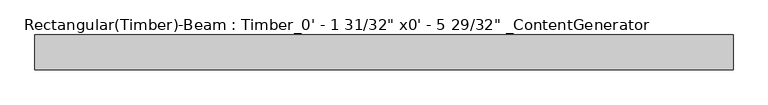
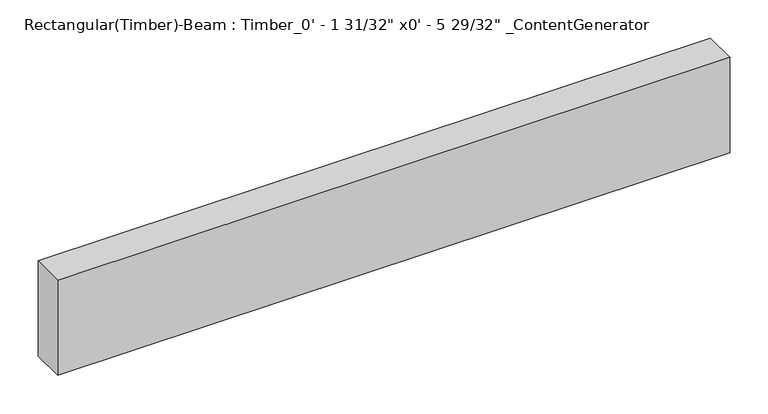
"""IFC4 building model written with IfcOpenShell, lengths in millimetres: beam geometry."""

from ifc_helpers import new_model, si_unit, frame, origin, place, context, project, spatial, polyline, outline, extrude, source, transform, mapped, element, save


def beam_a7231d91(model_context):
    return source(origin(), model_context, "Body", "SweptSolid", [
        extrude(outline(polyline([(508.01, 25.4), (508.01, -25.4), (-508.01, -25.4), (-508.01, 25.4), (508.01, 25.4)])), frame((0.0, 0.0, -76.2), z_axis=(0.0, 0.0, 1.0), x_axis=(1.0, 0.0, 0.0)), (0.0, 0.0, 1.0), 152.4),
    ])


if __name__ == "__main__":
    model = new_model("IFC4")
    model_context = context("Model", 3, world=origin())
    ifc_project = project(units=[si_unit("LENGTHUNIT", "METRE", prefix="MILLI")], contexts=[model_context])
    site = spatial("IfcSite", under=ifc_project)
    building = spatial("IfcBuilding", under=site)
    placement = place(None, origin())
    beam_shape = beam_a7231d91(model_context)
    element("IfcBeam", 1, ObjectType="Rectangular(Timber)-Beam : Timber_0' - 1 31/32\" x0' - 5 29/32\" _ContentGenerator", at=placement, inside=building, context=model_context, shape_type="MappedRepresentation", body=[
        mapped(beam_shape, transform((0.0, 0.0, 0.0), x_axis=(1.0, 0.0, 0.0), y_axis=(0.0, 1.0, 0.0), z_axis=(0.0, 0.0, 1.0))),
    ])
    save(model, "model.ifc")
